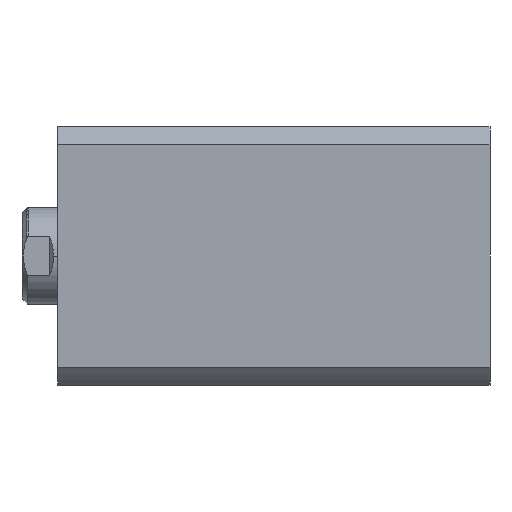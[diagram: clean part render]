
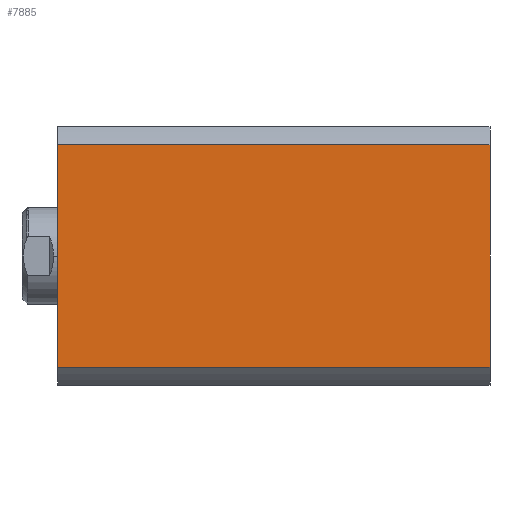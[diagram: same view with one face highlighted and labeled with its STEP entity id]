
A CAD part, left-side view. The second image highlights one B-rep face of the part: STEP entity #7885.
In plain terms, the highlighted planar face has unit normal (-1, 0, 0).
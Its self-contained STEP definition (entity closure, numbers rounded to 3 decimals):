
#1584 = LINE ( 'NONE', #9883, #15787 ) ;
#2364 = ORIENTED_EDGE ( 'NONE', *, *, #4335, .T. ) ;
#3057 = LINE ( 'NONE', #17404, #14016 ) ;
#3222 = VERTEX_POINT ( 'NONE', #12506 ) ;
#4335 = EDGE_CURVE ( 'NONE', #17213, #3222, #17130, .T. ) ;
#5048 = ORIENTED_EDGE ( 'NONE', *, *, #17014, .F. ) ;
#5178 = CARTESIAN_POINT ( 'NONE',  ( -47., 47., 0. ) ) ;
#5328 = LINE ( 'NONE', #13129, #12193 ) ;
#7350 = DIRECTION ( 'NONE',  ( 0., 1., 0. ) ) ;
#7788 = DIRECTION ( 'NONE',  ( 0., -1., 0. ) ) ;
#7885 = ADVANCED_FACE ( 'NONE', ( #13413 ), #10024, .F. ) ;
#8525 = EDGE_LOOP ( 'NONE', ( #5048, #2364, #12801, #9572 ) ) ;
#8984 = DIRECTION ( 'NONE',  ( 0., 0., 1. ) ) ;
#9503 = EDGE_CURVE ( 'NONE', #16558, #3222, #1584, .T. ) ;
#9572 = ORIENTED_EDGE ( 'NONE', *, *, #11558, .F. ) ;
#9883 = CARTESIAN_POINT ( 'NONE',  ( -47., -40.435, -143. ) ) ;
#10024 = PLANE ( 'NONE',  #13195 ) ;
#11256 = CARTESIAN_POINT ( 'NONE',  ( -47., -40.435, 157. ) ) ;
#11558 = EDGE_CURVE ( 'NONE', #13919, #16558, #3057, .T. ) ;
#12193 = VECTOR ( 'NONE', #8984, 1000. ) ;
#12506 = CARTESIAN_POINT ( 'NONE',  ( -47., -40.435, 0. ) ) ;
#12793 = CARTESIAN_POINT ( 'NONE',  ( -47., 47., 157. ) ) ;
#12801 = ORIENTED_EDGE ( 'NONE', *, *, #9503, .F. ) ;
#13129 = CARTESIAN_POINT ( 'NONE',  ( -47., 40.435, -143. ) ) ;
#13195 = AXIS2_PLACEMENT_3D ( 'NONE', #12793, #15570, #7350 ) ;
#13413 = FACE_OUTER_BOUND ( 'NONE', #8525, .T. ) ;
#13451 = VECTOR ( 'NONE', #17548, 1000. ) ;
#13919 = VERTEX_POINT ( 'NONE', #14525 ) ;
#14016 = VECTOR ( 'NONE', #7788, 1000. ) ;
#14525 = CARTESIAN_POINT ( 'NONE',  ( -47., 40.435, 157. ) ) ;
#15421 = DIRECTION ( 'NONE',  ( 0., 0., -1. ) ) ;
#15570 = DIRECTION ( 'NONE',  ( 1., 0., 0. ) ) ;
#15768 = CARTESIAN_POINT ( 'NONE',  ( -47., 40.435, 0. ) ) ;
#15787 = VECTOR ( 'NONE', #15421, 1000. ) ;
#16558 = VERTEX_POINT ( 'NONE', #11256 ) ;
#17014 = EDGE_CURVE ( 'NONE', #17213, #13919, #5328, .T. ) ;
#17130 = LINE ( 'NONE', #5178, #13451 ) ;
#17213 = VERTEX_POINT ( 'NONE', #15768 ) ;
#17404 = CARTESIAN_POINT ( 'NONE',  ( -47., 47., 157. ) ) ;
#17548 = DIRECTION ( 'NONE',  ( 0., -1., 0. ) ) ;
